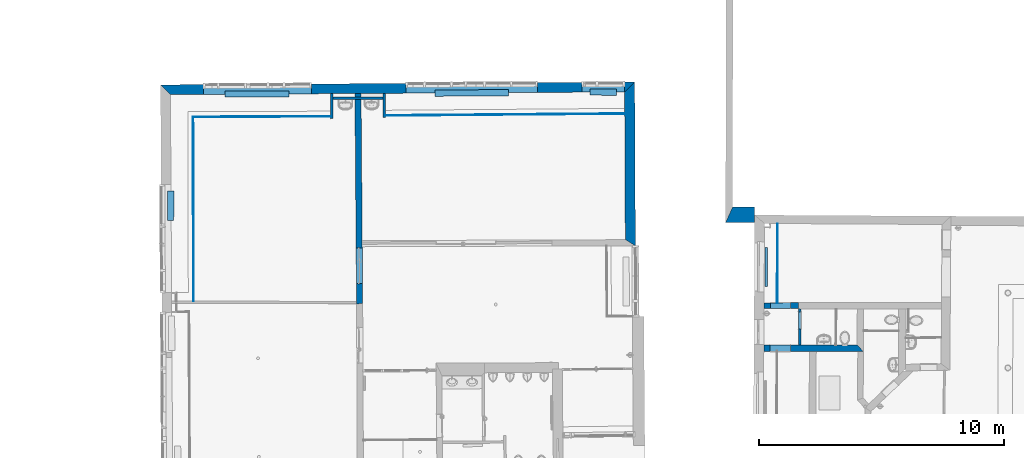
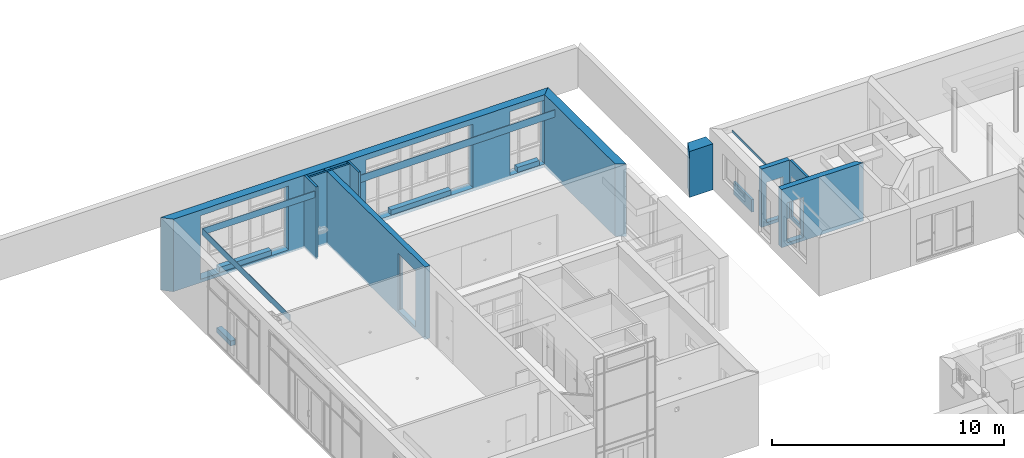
# One storey, part 34 of 196: 19 walls, 7 openings.
"""IFC2X3 building model written with IfcOpenShell, lengths in metres."""

from ifc_helpers import new_model, entity, si_unit, converted_unit, derived_unit, money_unit, direction, frame, origin_with_axes, origin_2d_with_axis, place, context, subcontext, project, spatial, polyline, rectangle, outline, extrude, material, layer, layer_set, layer_usage, type_object, element, save


model = new_model("IFC2X3")

# Units and contexts
model_context = context("Model", 3, precision=1e-05, world=origin_with_axes(), true_north=direction((0.0, 1.0)))
body_context = subcontext(model_context, "Body", "Model", "MODEL_VIEW")
ifc_project = project(units=[si_unit("LENGTHUNIT", "METRE"), si_unit("AREAUNIT", "SQUARE_METRE"), si_unit("VOLUMEUNIT", "CUBIC_METRE"), converted_unit("PLANEANGLEUNIT", "DEGREE", entity("IfcPlaneAngleMeasure", 0.0174532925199), si_unit("PLANEANGLEUNIT", "RADIAN"), dimensions=[0, 0, 0, 0, 0, 0, 0]), money_unit("EUR"), converted_unit("TIMEUNIT", "Year", entity("IfcTimeMeasure", 31556926.0), si_unit("TIMEUNIT", "SECOND"), dimensions=[0, 0, 1, 0, 0, 0, 0]), si_unit("MASSUNIT", "GRAM", prefix="KILO"), si_unit("THERMODYNAMICTEMPERATUREUNIT", "DEGREE_CELSIUS"), si_unit("LUMINOUSINTENSITYUNIT", "LUMEN"), si_unit("ENERGYUNIT", "JOULE", prefix="MEGA"), derived_unit("THERMALCONDUCTANCEUNIT", [(si_unit("POWERUNIT", "WATT"), 1), (si_unit("LENGTHUNIT", "METRE"), -1), (si_unit("THERMODYNAMICTEMPERATUREUNIT", "KELVIN"), -1)]), derived_unit("SPECIFICHEATCAPACITYUNIT", [(si_unit("ENERGYUNIT", "JOULE"), 1), (si_unit("MASSUNIT", "GRAM", prefix="KILO"), -1), (si_unit("THERMODYNAMICTEMPERATUREUNIT", "KELVIN"), -1)]), derived_unit("MASSDENSITYUNIT", [(si_unit("MASSUNIT", "GRAM", prefix="KILO"), 1), (si_unit("VOLUMEUNIT", "CUBIC_METRE"), -1)])], contexts=[model_context])

# Site, building, storey
site_placement = place(None, origin_with_axes())
site = spatial("IfcSite", under=ifc_project, at=site_placement, Name="Gelände", CompositionType="ELEMENT")
building_placement = place(site_placement, origin_with_axes())
building = spatial("IfcBuilding", under=site, at=building_placement, Name="Gebäude", CompositionType="ELEMENT")
storey_placement = place(building_placement, frame((0.0, 0.0, -3.0), z_axis=(0.0, 0.0, 1.0), x_axis=(1.0, 0.0, 0.0)))
storey = spatial("IfcBuildingStorey", under=building, at=storey_placement, Name="KELLERGESCHOSS", CompositionType="ELEMENT", Elevation=-3.0)

# Wall, openings
ifc_material_1 = material(Name="05_ALLGEMEIN - TRAGENDE BAUTEILE")
ifc_layer_1 = layer(ifc_material_1, 0.4, ventilated="UNKNOWN")
ifc_layer_set_1 = layer_set([ifc_layer_1], Name="05_ALLGEMEIN - TRAGENDE BAUTEILE 0.4")
ifc_layer_usage_1 = layer_usage(ifc_layer_set_1, "AXIS2", "NEGATIVE", 0.4)
wall_type_1 = type_object("IfcWallType", Name="05_ALLGEMEIN - TRAGENDE BAUTEILE 400", PredefinedType="ELEMENTEDWALL")
wall_1_placement = place(storey_placement, frame((-15.6347250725, 54.0236342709, 0.25), z_axis=(0.0, 0.0, 1.0), x_axis=(-0.99998255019, -0.00590756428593, 0.0)))
wall_1 = element("IfcWallStandardCase", 1, at=wall_1_placement, inside=storey, type_object=wall_type_1, material=ifc_layer_usage_1, Name="Wand-030", ObjectType="ELEMENTEDWALL", context=body_context, shape_type="SweptSolid", body=[
    extrude(outline(polyline([(0.0, 0.0), (19.3155334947, 0.0), (18.9155506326, 0.4), (0.410484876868, 0.4), (0.0, 0.0)])), origin_with_axes(), (0.0, 0.0, 1.0), 3.81),
])
opening_1_placement = place(wall_1_placement, frame((15.3680473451, 0.0, 0.171025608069), z_axis=(0.0, 0.0, 1.0), x_axis=(1.0, 0.0, 0.0)))
element("IfcOpeningElement", 2, at=opening_1_placement, cuts=wall_1, Name="Fenster-025", context=body_context, shape_type="SweptSolid", body=[
    extrude(rectangle(XDim=4.39894355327, YDim=3.34999990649, at=origin_2d_with_axis()), frame((0.0, 0.4, 1.67499995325), z_axis=(0.0, 1.0, 0.0), x_axis=(-1.0, 0.0, 0.0)), (0.0, 0.0, -1.0), 1.2),
])
opening_2_placement = place(wall_1_placement, frame((6.63947699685, 0.0, 0.17), z_axis=(0.0, 0.0, 1.0), x_axis=(1.0, 0.0, 0.0)))
element("IfcOpeningElement", 3, at=opening_2_placement, cuts=wall_1, Name="Fenster-025", context=body_context, shape_type="SweptSolid", body=[
    extrude(rectangle(XDim=5.34350268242, YDim=3.35102551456, at=origin_2d_with_axis()), frame((0.0, 0.4, 1.67551275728), z_axis=(0.0, 1.0, 0.0), x_axis=(-1.0, 0.0, 0.0)), (0.0, 0.0, -1.0), 1.2),
])
opening_3_placement = place(wall_1_placement, frame((1.27770759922, 0.0, 0.17), z_axis=(0.0, 0.0, 1.0), x_axis=(1.0, 0.0, 0.0)))
element("IfcOpeningElement", 4, at=opening_3_placement, cuts=wall_1, Name="Fenster-025", context=body_context, shape_type="SweptSolid", body=[
    extrude(rectangle(XDim=1.73444544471, YDim=3.35102551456, at=origin_2d_with_axis()), frame((0.0, 0.4, 1.67551275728), z_axis=(0.0, 1.0, 0.0), x_axis=(-1.0, 0.0, 0.0)), (0.0, 0.0, -1.0), 1.2),
])

# Wall, opening
ifc_layer_2 = layer(ifc_material_1, 0.23, ventilated="UNKNOWN")
ifc_layer_set_2 = layer_set([ifc_layer_2], Name="05_ALLGEMEIN - TRAGENDE BAUTEILE 0.23")
ifc_layer_usage_2 = layer_usage(ifc_layer_set_2, "AXIS2", "NEGATIVE", 0.23)
wall_type_2 = type_object("IfcWallType", Name="05_ALLGEMEIN - TRAGENDE BAUTEILE 230", PredefinedType="ELEMENTEDWALL")
wall_2_placement = place(storey_placement, frame((-8.96120702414, 45.0325084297, 0.44), z_axis=(0.0, 0.0, 1.0), x_axis=(-0.999999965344, -0.000263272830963, 0.0)))
wall_2 = element("IfcWallStandardCase", 5, at=wall_2_placement, inside=storey, type_object=wall_type_2, material=ifc_layer_usage_2, Name="Wand-031", ObjectType="ELEMENTEDWALL", context=body_context, shape_type="SweptSolid", body=[
    extrude(outline(polyline([(0.0, 0.0), (1.40223722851, 0.0), (1.403584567, 0.23), (0.0, 0.23), (0.0, 0.0)])), origin_with_axes(), (0.0, 0.0, 1.0), 3.06),
])
opening_4_placement = place(wall_2_placement, frame((0.735819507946, 0.0, 0.17), z_axis=(0.0, 0.0, 1.0), x_axis=(1.0, 0.0, 0.0)))
element("IfcOpeningElement", 6, at=opening_4_placement, cuts=wall_2, Name="Tür-022", context=body_context, shape_type="SweptSolid", body=[
    extrude(rectangle(XDim=0.811910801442, YDim=2.11289133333, at=origin_2d_with_axis()), frame((0.0, -0.23, 1.05644566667), z_axis=(0.0, -1.0, 0.0), x_axis=(1.0, 0.0, 0.0)), (0.0, 0.0, -1.0), 0.69),
])

# Wall
ifc_layer_3 = layer(ifc_material_1, 0.1, ventilated="UNKNOWN")
ifc_layer_set_3 = layer_set([ifc_layer_3], Name="05_ALLGEMEIN - TRAGENDE BAUTEILE 0.1")
ifc_layer_usage_3 = layer_usage(ifc_layer_set_3, "AXIS2", "NEGATIVE", 0.1)
wall_type_3 = type_object("IfcWallType", Name="05_ALLGEMEIN - TRAGENDE BAUTEILE 100", PredefinedType="ELEMENTEDWALL")
wall_3_placement = place(storey_placement, frame((-28.0259495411, 53.3049009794, 0.25), z_axis=(0.0, 0.0, 1.0), x_axis=(0.999999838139, 0.000568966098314, 0.0)))
element("IfcWallStandardCase", 7, at=wall_3_placement, inside=storey, type_object=wall_type_3, material=ifc_layer_usage_3, Name="Wand-031", ObjectType="ELEMENTEDWALL", context=body_context, shape_type="SweptSolid", body=[
    extrude(outline(polyline([(0.105000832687, 0.0), (2.13614709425, 0.0), (2.13620399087, 0.1), (0.105399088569, 0.1), (0.105000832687, 0.0)])), origin_with_axes(), (0.0, 0.0, 1.0), 3.81),
])

# Wall, opening
ifc_layer_4 = layer(ifc_material_1, 0.250000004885, ventilated="UNKNOWN")
ifc_layer_set_4 = layer_set([ifc_layer_4], Name="05_ALLGEMEIN - TRAGENDE BAUTEILE 0.25")
ifc_layer_usage_4 = layer_usage(ifc_layer_set_4, "AXIS2", "NEGATIVE", 0.0)
wall_type_4 = type_object("IfcWallType", Name="05_ALLGEMEIN - TRAGENDE BAUTEILE 250", PredefinedType="ELEMENTEDWALL")
wall_4_placement = place(storey_placement, frame((-26.7847363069, 53.9577637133, 0.25), z_axis=(0.0, 0.0, 1.0), x_axis=(0.00777653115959, -0.999969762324, 0.0)))
wall_4 = element("IfcWallStandardCase", 8, at=wall_4_placement, inside=storey, type_object=wall_type_4, material=ifc_layer_usage_4, Name="Wand-031", ObjectType="ELEMENTEDWALL", context=body_context, shape_type="SweptSolid", body=[
    extrude(outline(polyline([(0.399533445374, -0.25), (8.96504412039, -0.25), (8.96546562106, 0.0), (0.400000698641, 0.0), (0.399533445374, -0.25)])), origin_with_axes(), (0.0, 0.0, 1.0), 3.81),
])
opening_5_placement = place(wall_4_placement, frame((7.41151135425, 0.0, 0.17), z_axis=(0.0, 0.0, 1.0), x_axis=(1.0, 0.0, 0.0)))
element("IfcOpeningElement", 9, at=opening_5_placement, cuts=wall_4, Name="Tür-022", context=body_context, shape_type="SweptSolid", body=[
    extrude(rectangle(XDim=1.45150553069, YDim=2.97865511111, at=origin_2d_with_axis()), frame((0.0, -0.115, 1.48932755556), z_axis=(0.0, -1.0, 0.0), x_axis=(1.0, 0.0, 0.0)), (0.0, 0.0, -1.0), 0.365),
    extrude(rectangle(XDim=1.45150553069, YDim=2.97865511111, at=origin_2d_with_axis()), frame((0.0, -0.18, 1.48932755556), z_axis=(0.0, 1.0, 0.0), x_axis=(1.0, 0.0, 0.0)), (0.0, 0.0, -1.0), 0.32),
    extrude(rectangle(XDim=1.49150553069, YDim=2.99865511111, at=origin_2d_with_axis()), frame((0.0, -0.115, 1.49932755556), z_axis=(0.0, -1.0, 0.0), x_axis=(1.0, 0.0, 0.0)), (0.0, 0.0, 1.0), 0.065),
])

# Walls
ifc_material_2 = material(Name="43_Gipskarton")
ifc_layer_5 = layer(ifc_material_2, 0.03, ventilated="UNKNOWN")
ifc_layer_set_5 = layer_set([ifc_layer_5], Name="43_Gipskarton 0.03")
ifc_layer_usage_5 = layer_usage(ifc_layer_set_5, "AXIS2", "NEGATIVE", 0.03)
wall_type_5 = type_object("IfcWallType", Name="43_Gipskarton 30", PredefinedType="ELEMENTEDWALL")
wall_5_placement = place(storey_placement, frame((-33.6388834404, 52.6163092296, 3.47), z_axis=(0.0, 0.0, 1.0), x_axis=(0.00253122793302, -0.999996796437, 0.0)))
element("IfcWallStandardCase", 10, at=wall_5_placement, inside=storey, type_object=wall_type_5, material=ifc_layer_usage_5, Name="Wand-040", ObjectType="ELEMENTEDWALL", context=body_context, shape_type="SweptSolid", body=[
    extrude(outline(polyline([(0.0, 0.0), (7.52195741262, 0.0), (7.52204119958, 0.03), (0.0299585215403, 0.03), (0.0, 0.0)])), origin_with_axes(), (0.0, 0.0, 1.0), 0.34),
])
ifc_layer_usage_6 = layer_usage(ifc_layer_set_5, "AXIS2", "NEGATIVE", 0.03)
wall_6_placement = place(storey_placement, frame((-28.028225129, 52.6382739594, 3.47), z_axis=(0.0, 0.0, 1.0), x_axis=(-0.999992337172, -0.00391479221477, 0.0)))
element("IfcWallStandardCase", 11, at=wall_6_placement, inside=storey, type_object=wall_type_5, material=ifc_layer_usage_6, Name="Wand-047", ObjectType="ELEMENTEDWALL", context=body_context, shape_type="SweptSolid", body=[
    extrude(outline(polyline([(0.0, 0.0), (5.6107013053, 0.0), (5.58074278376, 0.03), (0.000219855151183, 0.03), (0.0, 0.0)])), origin_with_axes(), (0.0, 0.0, 1.0), 0.34),
])
ifc_layer_usage_7 = layer_usage(ifc_layer_set_5, "AXIS2", "NEGATIVE", 0.0)
wall_7_placement = place(storey_placement, frame((-25.7848027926, 52.673190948, 3.43), z_axis=(0.0, 0.0, 1.0), x_axis=(0.999967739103, 0.00803248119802, 0.0)))
element("IfcWallStandardCase", 12, at=wall_7_placement, inside=storey, type_object=wall_type_5, material=ifc_layer_usage_7, Name="Wand-047", ObjectType="ELEMENTEDWALL", context=body_context, shape_type="SweptSolid", body=[
    extrude(outline(polyline([(-0.00024098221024, -0.03), (9.74626182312, -0.03), (9.74636191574, 0.0), (0.0, 0.0), (-0.00024098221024, -0.03)])), origin_with_axes(), (0.0, 0.0, 1.0), 0.38),
])
ifc_layer_usage_8 = layer_usage(ifc_layer_set_5, "AXIS2", "NEGATIVE", 0.0)
wall_8_placement = place(storey_placement, frame((-9.79968817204, 48.2587165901, 3.16), z_axis=(0.0, 0.0, 1.0), x_axis=(-0.00267472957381, -0.999996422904, 0.0)))
element("IfcWallStandardCase", 13, at=wall_8_placement, inside=storey, type_object=wall_type_5, material=ifc_layer_usage_8, Name="Wand-049", ObjectType="ELEMENTEDWALL", context=body_context, shape_type="SweptSolid", body=[
    extrude(outline(polyline([(-9.18989615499e-05, -0.03), (3.24789704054, -0.03), (3.24789704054, 0.0), (0.0, 0.0), (-9.18989615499e-05, -0.03)])), origin_with_axes(), (0.0, 0.0, 1.0), 0.13),
])
ifc_material_3 = material(Name="01_ALLGEMEIN - BAUTEIL")
ifc_layer_6 = layer(ifc_material_3, 0.105, ventilated="UNKNOWN")
ifc_layer_set_6 = layer_set([ifc_layer_6], Name="01_ALLGEMEIN - BAUTEIL 0.105")
ifc_layer_usage_9 = layer_usage(ifc_layer_set_6, "AXIS2", "NEGATIVE", 0.105)
wall_type_6 = type_object("IfcWallType", Name="01_ALLGEMEIN - BAUTEIL 105", PredefinedType="ELEMENTEDWALL")
wall_9_placement = place(storey_placement, frame((-10.2254430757, 45.6958296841, 0.683635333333), z_axis=(0.0, 0.0, 1.0), x_axis=(0.00610662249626, 0.999981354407, 0.0)))
element("IfcWallStandardCase", 14, at=wall_9_placement, inside=storey, type_object=wall_type_6, material=ifc_layer_usage_9, Name="Wand-030", ObjectType="ELEMENTEDWALL", context=body_context, shape_type="SweptSolid", body=[
    extrude(outline(polyline([(0.0, 0.0), (1.59064609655, 0.0), (1.59064609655, 0.105), (0.0, 0.105), (0.0, 0.0)])), origin_with_axes(), (0.0, 0.0, 1.0), 0.661933),
])
ifc_layer_7 = layer(ifc_material_1, 0.41, ventilated="UNKNOWN")
ifc_layer_set_7 = layer_set([ifc_layer_7], Name="05_ALLGEMEIN - TRAGENDE BAUTEILE 0.41")
ifc_layer_usage_10 = layer_usage(ifc_layer_set_7, "AXIS2", "NEGATIVE", 0.0)
wall_type_7 = type_object("IfcWallType", Name="05_ALLGEMEIN - TRAGENDE BAUTEILE 410", PredefinedType="ELEMENTEDWALL")
wall_10_placement = place(storey_placement, frame((-15.6347250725, 54.0236342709, 0.25), z_axis=(0.0, 0.0, 1.0), x_axis=(0.00469614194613, -0.999988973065, 0.0)))
element("IfcWallStandardCase", 15, at=wall_10_placement, inside=storey, type_object=wall_type_7, material=ifc_layer_usage_10, Name="Wand-030", ObjectType="ELEMENTEDWALL", context=body_context, shape_type="SweptSolid", body=[
    extrude(outline(polyline([(0.400496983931, -0.41), (6.41978647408, -0.41), (6.67024058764, 0.0), (0.0, 0.0), (0.400496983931, -0.41)])), origin_with_axes(), (0.0, 0.0, 1.0), 3.81),
])
ifc_layer_8 = layer(ifc_material_3, 0.255, ventilated="UNKNOWN")
ifc_layer_set_8 = layer_set([ifc_layer_8], Name="01_ALLGEMEIN - BAUTEIL 0.255")
ifc_layer_usage_11 = layer_usage(ifc_layer_set_8, "AXIS2", "NEGATIVE", 0.255)
wall_type_8 = type_object("IfcWallType", Name="01_ALLGEMEIN - BAUTEIL 255", PredefinedType="ELEMENTEDWALL")
wall_11_placement = place(storey_placement, frame((-32.3166000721, 53.408320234, 0.548104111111), z_axis=(0.0, 0.0, 1.0), x_axis=(0.999999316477, 0.0011692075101, 0.0)))
element("IfcWallStandardCase", 16, at=wall_11_placement, inside=storey, type_object=wall_type_8, material=ifc_layer_usage_11, Name="Wand-030", ObjectType="ELEMENTEDWALL", context=body_context, shape_type="SweptSolid", body=[
    extrude(outline(polyline([(0.0, 0.0), (2.5923321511, 0.0), (2.5923321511, 0.255), (0.0, 0.255), (0.0, 0.0)])), origin_with_axes(), (0.0, 0.0, 1.0), 0.260503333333),
])
ifc_layer_usage_12 = layer_usage(ifc_layer_set_8, "AXIS2", "NEGATIVE", 0.255)
wall_12_placement = place(storey_placement, frame((-23.7665347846, 53.4432227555, 0.548104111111), z_axis=(0.0, 0.0, 1.0), x_axis=(0.999975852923, 0.00694935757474, 0.0)))
element("IfcWallStandardCase", 17, at=wall_12_placement, inside=storey, type_object=wall_type_8, material=ifc_layer_usage_12, Name="Wand-030", ObjectType="ELEMENTEDWALL", context=body_context, shape_type="SweptSolid", body=[
    extrude(outline(polyline([(0.0, 0.0), (2.99314000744, 0.0), (2.99314000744, 0.255), (0.0, 0.255), (0.0, 0.0)])), origin_with_axes(), (0.0, 0.0, 1.0), 0.260503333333),
])
ifc_layer_usage_13 = layer_usage(ifc_layer_set_8, "AXIS2", "NEGATIVE", 0.255)
wall_13_placement = place(storey_placement, frame((-34.4131938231, 48.3793862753, 0.548104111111), z_axis=(0.0, 0.0, 1.0), x_axis=(0.00129360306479, 0.999999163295, 0.0)))
element("IfcWallStandardCase", 18, at=wall_13_placement, inside=storey, type_object=wall_type_8, material=ifc_layer_usage_13, Name="Wand-031", ObjectType="ELEMENTEDWALL", context=body_context, shape_type="SweptSolid", body=[
    extrude(outline(polyline([(0.0, 0.0), (1.19723459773, 0.0), (1.19723459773, 0.255), (0.0, 0.255), (0.0, 0.0)])), origin_with_axes(), (0.0, 0.0, 1.0), 0.260503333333),
])
ifc_layer_usage_14 = layer_usage(ifc_layer_set_8, "AXIS2", "NEGATIVE", 0.255)
wall_14_placement = place(storey_placement, frame((-17.4588749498, 53.4891886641, 0.548104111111), z_axis=(0.0, 0.0, 1.0), x_axis=(0.99998304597, -0.00582303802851, 0.0)))
element("IfcWallStandardCase", 19, at=wall_14_placement, inside=storey, type_object=wall_type_8, material=ifc_layer_usage_14, Name="Wand-031", ObjectType="ELEMENTEDWALL", context=body_context, shape_type="SweptSolid", body=[
    extrude(outline(polyline([(0.0, 0.0), (1.07971151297, 0.0), (1.07971151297, 0.255), (0.0, 0.255), (0.0, 0.0)])), origin_with_axes(), (0.0, 0.0, 1.0), 0.260503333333),
])
ifc_layer_9 = layer(ifc_material_1, 0.105, ventilated="UNKNOWN")
ifc_layer_set_9 = layer_set([ifc_layer_9], Name="05_ALLGEMEIN - TRAGENDE BAUTEILE 0.105")
ifc_layer_usage_15 = layer_usage(ifc_layer_set_9, "AXIS2", "NEGATIVE", 0.105)
wall_type_9 = type_object("IfcWallType", Name="05_ALLGEMEIN - TRAGENDE BAUTEILE 105", PredefinedType="ELEMENTEDWALL")
wall_15_placement = place(storey_placement, frame((-28.023745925, 53.9504440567, 0.25), z_axis=(0.0, 0.0, 1.0), x_axis=(-0.00341356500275, -0.99999417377, 0.0)))
element("IfcWallStandardCase", 20, at=wall_15_placement, inside=storey, type_object=wall_type_9, material=ifc_layer_usage_15, Name="Wand-030", ObjectType="ELEMENTEDWALL", context=body_context, shape_type="SweptSolid", body=[
    extrude(outline(polyline([(0.400017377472, 0.0), (1.42777923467, 0.0), (1.39777923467, 0.105), (0.399038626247, 0.105), (0.400017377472, 0.0)])), origin_with_axes(), (0.0, 0.0, 1.0), 3.81),
])
ifc_layer_usage_16 = layer_usage(ifc_layer_set_9, "AXIS2", "NEGATIVE", 0.0)
wall_16_placement = place(storey_placement, frame((-25.7848027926, 53.9636709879, 0.25), z_axis=(0.0, 0.0, 1.0), x_axis=(0.0, -1.0, 0.0)))
element("IfcWallStandardCase", 21, at=wall_16_placement, inside=storey, type_object=wall_type_9, material=ifc_layer_usage_16, Name="Wand-030", ObjectType="ELEMENTEDWALL", context=body_context, shape_type="SweptSolid", body=[
    extrude(outline(polyline([(0.40062728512, -0.105), (1.3925409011, -0.105), (1.3925409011, 0.0), (0.400006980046, 0.0), (0.40062728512, -0.105)])), origin_with_axes(), (0.0, 0.0, 1.0), 3.81),
])

# Wall, opening
ifc_layer_10 = layer(ifc_material_2, 0.11, ventilated="UNKNOWN")
ifc_layer_set_10 = layer_set([ifc_layer_10], Name="43_Gipskarton 0.11")
ifc_layer_usage_17 = layer_usage(ifc_layer_set_10, "AXIS2", "NEGATIVE", 0.0)
wall_type_10 = type_object("IfcWallType", Name="43_Gipskarton 110", PredefinedType="ELEMENTEDWALL")
wall_17_placement = place(storey_placement, frame((-8.96857564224, 43.3170440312, 0.44), z_axis=(0.0, 0.0, 1.0), x_axis=(0.0042953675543, 0.999990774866, 0.0)))
wall_17 = element("IfcWallStandardCase", 22, at=wall_17_placement, inside=storey, type_object=wall_type_10, material=ifc_layer_usage_17, Name="Wand-031", ObjectType="ELEMENTEDWALL", context=body_context, shape_type="SweptSolid", body=[
    extrude(outline(polyline([(0.000375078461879, -0.11), (1.45597897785, -0.11), (1.4854778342, 0.0), (0.0, 0.0), (0.000375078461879, -0.11)])), origin_with_axes(), (0.0, 0.0, 1.0), 3.06),
])
opening_6_placement = place(wall_17_placement, frame((0.996821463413, 0.0, 0.17), z_axis=(0.0, 0.0, 1.0), x_axis=(1.0, 0.0, 0.0)))
element("IfcOpeningElement", 23, at=opening_6_placement, cuts=wall_17, Name="Tür-022", context=body_context, shape_type="SweptSolid", body=[
    extrude(rectangle(XDim=0.700920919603, YDim=2.10677533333, at=origin_2d_with_axis()), frame((0.0, -0.11, 1.05338766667), z_axis=(0.0, -1.0, 0.0), x_axis=(1.0, 0.0, 0.0)), (0.0, 0.0, -1.0), 0.33),
])

# Wall
ifc_layer_11 = layer(ifc_material_1, 0.62, ventilated="UNKNOWN")
ifc_layer_set_11 = layer_set([ifc_layer_11], Name="05_ALLGEMEIN - TRAGENDE BAUTEILE 0.62")
ifc_layer_usage_18 = layer_usage(ifc_layer_set_11, "AXIS2", "NEGATIVE", 0.62)
wall_type_11 = type_object("IfcWallType", Name="05_ALLGEMEIN - TRAGENDE BAUTEILE 620", PredefinedType="ELEMENTEDWALL")
wall_18_placement = place(storey_placement, frame((-11.92696216, 48.3050284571, 0.44), z_axis=(0.0, 0.0, 1.0), x_axis=(0.999999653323, -0.000832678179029, 0.0)))
element("IfcWallStandardCase", 24, at=wall_18_placement, inside=storey, type_object=wall_type_11, material=ifc_layer_usage_18, Name="Wand-032", ObjectType="ELEMENTEDWALL", context=body_context, shape_type="SweptSolid", body=[
    extrude(outline(polyline([(0.0, 0.0), (1.18181747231, 0.0), (1.18181747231, 0.62), (0.280447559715, 0.62), (0.0, 0.0)])), origin_with_axes(), (0.0, 0.0, 1.0), 2.4120745),
])

# Wall, opening
ifc_layer_12 = layer(ifc_material_2, 0.27, ventilated="UNKNOWN")
ifc_layer_set_12 = layer_set([ifc_layer_12], Name="43_Gipskarton 0.27")
ifc_layer_usage_19 = layer_usage(ifc_layer_set_12, "AXIS2", "NEGATIVE", 0.0)
wall_type_12 = type_object("IfcWallType", Name="43_Gipskarton 270", PredefinedType="ELEMENTEDWALL")
wall_19_placement = place(storey_placement, frame((-10.7730369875, 43.3186420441, 0.44), z_axis=(0.0, 0.0, 1.0), x_axis=(0.999999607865, -0.00088558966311, 0.0)))
wall_19 = element("IfcWallStandardCase", 25, at=wall_19_placement, inside=storey, type_object=wall_type_12, material=ifc_layer_usage_19, Name="Wand-032", ObjectType="ELEMENTEDWALL", context=body_context, shape_type="SweptSolid", body=[
    extrude(outline(polyline([(0.398732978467, -0.27), (4.45954176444, -0.27), (4.20073295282, 0.0), (0.400004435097, 0.0), (0.398732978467, -0.27)])), origin_with_axes(), (0.0, 0.0, 1.0), 3.06),
])
opening_7_placement = place(wall_19_placement, frame((1.06759406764, 0.0, 0.17), z_axis=(0.0, 0.0, 1.0), x_axis=(1.0, 0.0, 0.0)))
element("IfcOpeningElement", 26, at=opening_7_placement, cuts=wall_19, Name="Tür-022", context=body_context, shape_type="SweptSolid", body=[
    extrude(rectangle(XDim=0.823191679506, YDim=2.10340533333, at=origin_2d_with_axis()), frame((0.0, -0.27, 1.05170266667), z_axis=(0.0, 1.0, 0.0), x_axis=(-1.0, 0.0, 0.0)), (0.0, 0.0, 1.0), 0.81),
])

save(model, "model.ifc")
